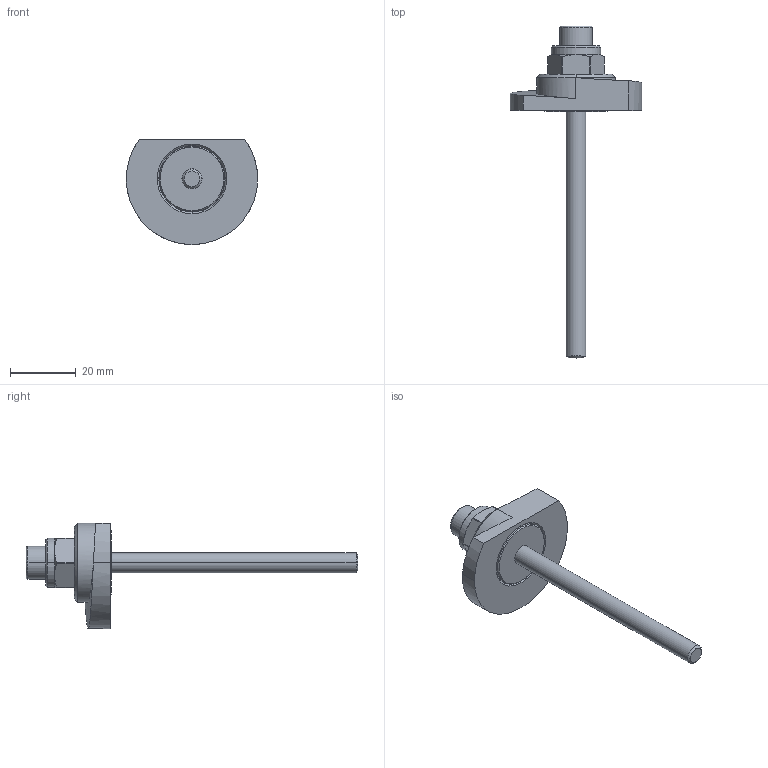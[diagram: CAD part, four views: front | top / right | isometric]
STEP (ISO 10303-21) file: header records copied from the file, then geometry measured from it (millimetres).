
FILE_DESCRIPTION (( 'STEP AP214' ), '1' );
FILE_NAME ('918.1-40-SKS-L-75.step', '2024-05-15T13:01:01', ( '' ), ( '' ), 'SwSTEP 2.0', 'SolidWorks 2022', '' );
FILE_SCHEMA (( 'AUTOMOTIVE_DESIGN' ));
Length unit declared in the file: millimetre
Products named in the file (1): 918.1-40-SKS-L-75
Bounding box: 40 x 101 x 32 mm (x, y, z)
Volume: 13070.6 mm3; surface area: 7622.1 mm2
Topology: 1 solids, 2 shells, 80 faces, 179 edges, 112 vertices
Faces by surface type: cylinder 27, plane 26, cone 22, bspline 3, torus 2
Entity records: 2599 total; most frequent: CARTESIAN_POINT 777, DIRECTION 390, ORIENTED_EDGE 358, EDGE_CURVE 179, AXIS2_PLACEMENT_3D 157, VERTEX_POINT 112, EDGE_LOOP 91, FACE_OUTER_BOUND 80
